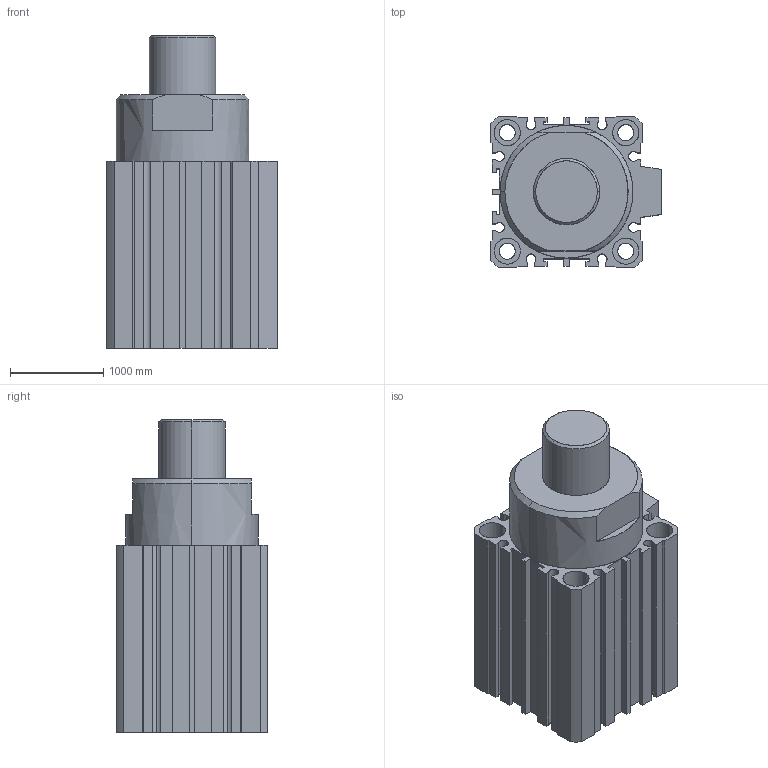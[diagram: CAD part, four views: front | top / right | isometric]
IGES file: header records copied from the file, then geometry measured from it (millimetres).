
Start section: SolidWorks IGES file using analytic representation for surfaces
Global section: file name: C:\Documents and Settings\Standard\Bureau\NM pieces 3d\ELO 50 25 tige sortie.IGS; native system: SolidWorks 2007; preprocessor: SolidWorks 2007; author: Standard; date: 080328.112000; units: inch
Bounding box: 1828.8 x 1625.6 x 3352.8 mm (x, y, z)
Surface area: 43788416.9 mm2 (no closed solid volume)
Topology: 0 solids, 0 shells, 580 faces, 12719 edges, 12759 vertices
Faces by surface type: bspline 517, revolution 63
